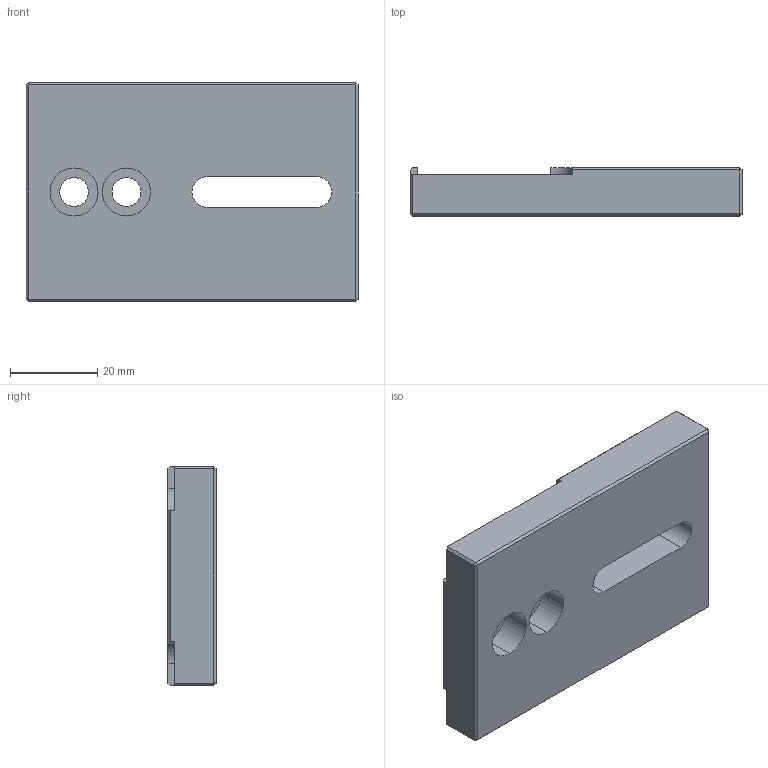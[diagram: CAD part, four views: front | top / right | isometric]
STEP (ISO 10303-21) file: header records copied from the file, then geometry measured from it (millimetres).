
FILE_DESCRIPTION (( 'STEP AP203' ), '1' );
FILE_NAME ('BP-2.step', '2019-05-09T08:55:38', ( '' ), ( '' ), 'SwSTEP 2.0', 'SolidWorks 2016', '' );
FILE_SCHEMA (( 'CONFIG_CONTROL_DESIGN' ));
Length unit declared in the file: millimetre
Products named in the file (1): BP-2
Bounding box: 76 x 11 x 50 mm (x, y, z)
Volume: 35450.7 mm3; surface area: 11040.9 mm2
Topology: 1 solids, 1 shells, 48 faces, 120 edges, 76 vertices
Faces by surface type: plane 36, cylinder 12
Entity records: 1501 total; most frequent: CARTESIAN_POINT 245, DIRECTION 242, ORIENTED_EDGE 240, EDGE_CURVE 120, VECTOR 96, LINE 96, VERTEX_POINT 76, AXIS2_PLACEMENT_3D 73
